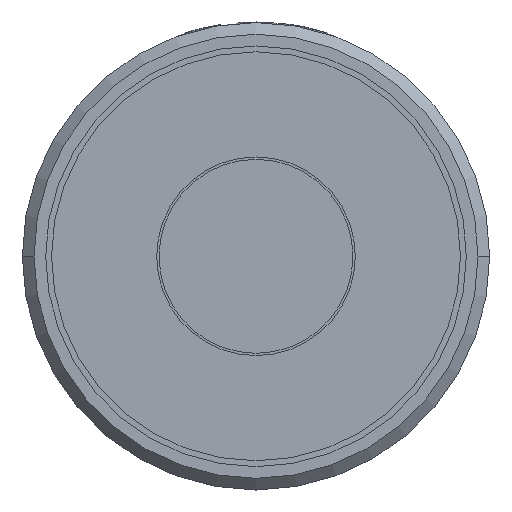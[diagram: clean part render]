
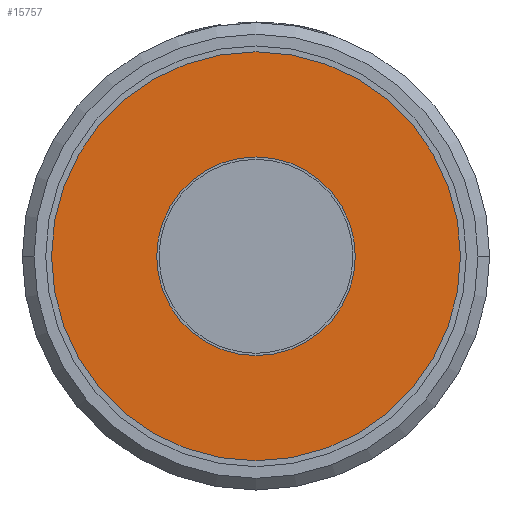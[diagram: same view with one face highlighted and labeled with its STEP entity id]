
A CAD part, left-side view. The second image highlights one B-rep face of the part: STEP entity #15757.
In plain terms, the highlighted planar face has unit normal (-1, 0, 0).
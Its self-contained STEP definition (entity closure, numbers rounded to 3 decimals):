
#48=CARTESIAN_POINT('',(0.,0.,0.));
#49=DIRECTION('',(-1.,0.,0.));
#50=DIRECTION('',(0.,1.,0.));
#51=AXIS2_PLACEMENT_3D('',#48,#49,#50);
#56=CARTESIAN_POINT('',(0.,0.,0.));
#57=DIRECTION('',(-1.,0.,0.));
#58=DIRECTION('',(0.,-1.,0.));
#59=AXIS2_PLACEMENT_3D('',#56,#57,#58);
#80=CARTESIAN_POINT('',(0.,0.,0.));
#81=DIRECTION('',(-1.,0.,0.));
#82=DIRECTION('',(0.,-1.,0.));
#83=AXIS2_PLACEMENT_3D('',#80,#81,#82);
#88=CARTESIAN_POINT('',(0.,0.,0.));
#89=DIRECTION('',(-1.,0.,0.));
#90=DIRECTION('',(0.,1.,0.));
#91=AXIS2_PLACEMENT_3D('',#88,#89,#90);
#14093=CARTESIAN_POINT('',(0.,4.25,0.));
#14094=CARTESIAN_POINT('',(0.,-4.25,0.));
#14095=VERTEX_POINT('',#14093);
#14096=VERTEX_POINT('',#14094);
#14101=CARTESIAN_POINT('',(0.,-8.75,0.));
#14102=CARTESIAN_POINT('',(0.,8.75,0.));
#14103=VERTEX_POINT('',#14101);
#14104=VERTEX_POINT('',#14102);
#15740=CARTESIAN_POINT('',(0.,0.,0.));
#15741=DIRECTION('',(1.,0.,0.));
#15742=DIRECTION('',(0.,-1.,0.));
#15743=AXIS2_PLACEMENT_3D('',#15740,#15741,#15742);
#15744=PLANE('',#15743);
#15746=ORIENTED_EDGE('',*,*,#15745,.F.);
#15748=ORIENTED_EDGE('',*,*,#15747,.F.);
#15749=EDGE_LOOP('',(#15746,#15748));
#15750=FACE_OUTER_BOUND('',#15749,.F.);
#15752=ORIENTED_EDGE('',*,*,#15751,.T.);
#15754=ORIENTED_EDGE('',*,*,#15753,.T.);
#15755=EDGE_LOOP('',(#15752,#15754));
#15756=FACE_BOUND('',#15755,.F.);
#15757=ADVANCED_FACE('',(#15750,#15756),#15744,.F.);
#52=CIRCLE('',#51,4.25);
#60=CIRCLE('',#59,4.25);
#84=CIRCLE('',#83,8.75);
#92=CIRCLE('',#91,8.75);
#15745=EDGE_CURVE('',#14103,#14104,#84,.T.);
#15747=EDGE_CURVE('',#14104,#14103,#92,.T.);
#15751=EDGE_CURVE('',#14095,#14096,#52,.T.);
#15753=EDGE_CURVE('',#14096,#14095,#60,.T.);
